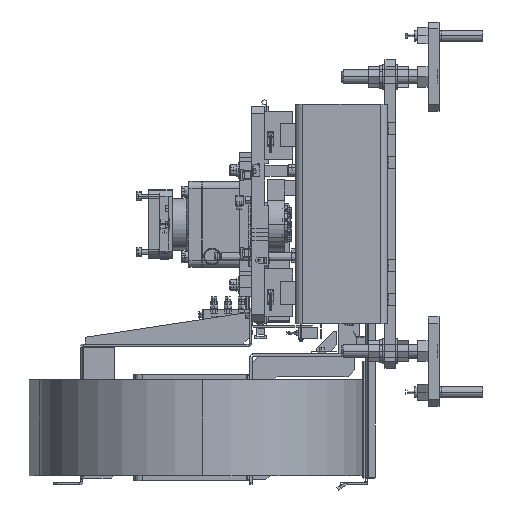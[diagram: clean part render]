
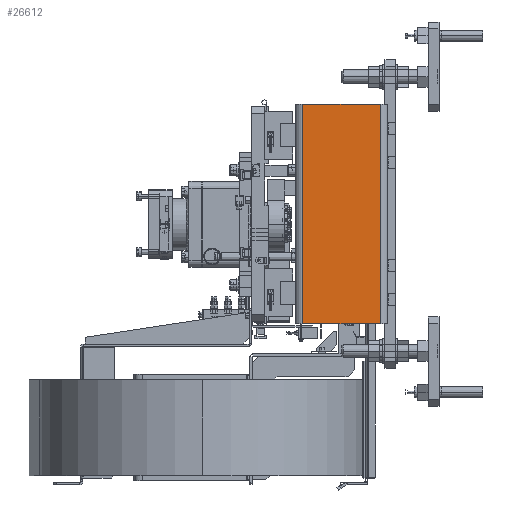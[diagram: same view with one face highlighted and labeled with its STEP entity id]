
A CAD part, left-side view. The second image highlights one B-rep face of the part: STEP entity #26612.
In plain terms, the highlighted planar face has unit normal (-1, 0, 0).
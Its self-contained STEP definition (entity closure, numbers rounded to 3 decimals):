
#15204 = CARTESIAN_POINT ( 'NONE',  ( -3997., -7.4, -160. ) ) ;
#19595 = EDGE_CURVE ( 'NONE', #75241, #196289, #155047, .T. ) ;
#26612 = ADVANCED_FACE ( 'NONE', ( #153372 ), #138791, .F. ) ;
#27462 = VERTEX_POINT ( 'NONE', #96614 ) ;
#43675 = LINE ( 'NONE', #157317, #132670 ) ;
#70723 = CARTESIAN_POINT ( 'NONE',  ( -3997., -7.4, 160. ) ) ;
#71219 = VECTOR ( 'NONE', #157440, 1000. ) ;
#75241 = VERTEX_POINT ( 'NONE', #70723 ) ;
#84858 = CARTESIAN_POINT ( 'NONE',  ( -3997., -7.4, 160. ) ) ;
#96614 = CARTESIAN_POINT ( 'NONE',  ( -3997., 106., 160. ) ) ;
#98519 = DIRECTION ( 'NONE',  ( 0., 0., -1. ) ) ;
#111684 = ORIENTED_EDGE ( 'NONE', *, *, #135571, .T. ) ;
#127721 = VERTEX_POINT ( 'NONE', #206373 ) ;
#132670 = VECTOR ( 'NONE', #230994, 1000. ) ;
#133604 = LINE ( 'NONE', #151670, #185957 ) ;
#135571 = EDGE_CURVE ( 'NONE', #127721, #196289, #223817, .T. ) ;
#136454 = CARTESIAN_POINT ( 'NONE',  ( -3997., -7.4, 160. ) ) ;
#138791 = PLANE ( 'NONE',  #186552 ) ;
#148120 = ORIENTED_EDGE ( 'NONE', *, *, #166197, .F. ) ;
#151670 = CARTESIAN_POINT ( 'NONE',  ( -3997., 106., 160. ) ) ;
#153372 = FACE_OUTER_BOUND ( 'NONE', #217299, .T. ) ;
#155047 = LINE ( 'NONE', #84858, #71219 ) ;
#157317 = CARTESIAN_POINT ( 'NONE',  ( -3997., -7.4, 160. ) ) ;
#157440 = DIRECTION ( 'NONE',  ( 0., 0., -1. ) ) ;
#163807 = DIRECTION ( 'NONE',  ( 0., -1., 0. ) ) ;
#165655 = ORIENTED_EDGE ( 'NONE', *, *, #181079, .T. ) ;
#166197 = EDGE_CURVE ( 'NONE', #27462, #75241, #43675, .T. ) ;
#174380 = CARTESIAN_POINT ( 'NONE',  ( -3997., -7.4, -160. ) ) ;
#176961 = ORIENTED_EDGE ( 'NONE', *, *, #19595, .F. ) ;
#181079 = EDGE_CURVE ( 'NONE', #27462, #127721, #133604, .T. ) ;
#185957 = VECTOR ( 'NONE', #98519, 1000. ) ;
#186552 = AXIS2_PLACEMENT_3D ( 'NONE', #136454, #227041, #212459 ) ;
#196289 = VERTEX_POINT ( 'NONE', #174380 ) ;
#206373 = CARTESIAN_POINT ( 'NONE',  ( -3997., 106., -160. ) ) ;
#212005 = VECTOR ( 'NONE', #163807, 1000. ) ;
#212459 = DIRECTION ( 'NONE',  ( 0., 1., 0. ) ) ;
#217299 = EDGE_LOOP ( 'NONE', ( #111684, #176961, #148120, #165655 ) ) ;
#223817 = LINE ( 'NONE', #15204, #212005 ) ;
#227041 = DIRECTION ( 'NONE',  ( 1., 0., 0. ) ) ;
#230994 = DIRECTION ( 'NONE',  ( 0., -1., 0. ) ) ;
